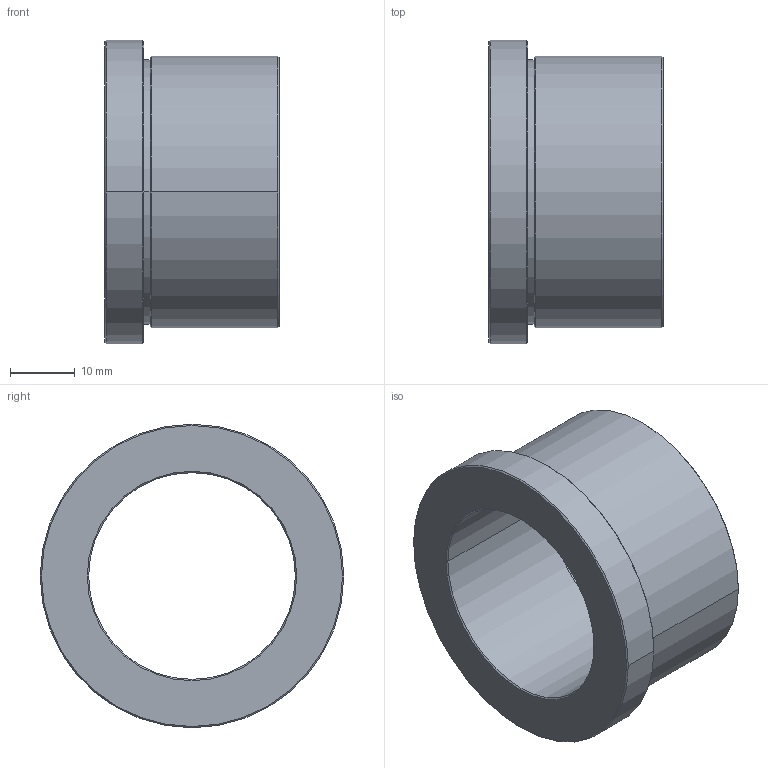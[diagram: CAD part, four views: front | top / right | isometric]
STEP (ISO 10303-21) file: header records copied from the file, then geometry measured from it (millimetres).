
FILE_DESCRIPTION (( 'STEP AP214' ), '1' );
FILE_NAME ('R03_027x32.STEP', '2015-03-05T14:47:21', ( 'TGL' ), ( '' ), 'SwSTEP 2.0', 'SolidWorks 2011', '' );
FILE_SCHEMA (( 'AUTOMOTIVE_DESIGN' ));
Length unit declared in the file: millimetre
Products named in the file (1): R03_027x32
Bounding box: 27 x 47 x 47 mm (x, y, z)
Volume: 17231.3 mm3; surface area: 8094.4 mm2
Topology: 1 solids, 1 shells, 24 faces, 48 edges, 28 vertices
Faces by surface type: cone 10, cylinder 8, plane 4, torus 2
Entity records: 730 total; most frequent: DIRECTION 128, CARTESIAN_POINT 101, ORIENTED_EDGE 96, AXIS2_PLACEMENT_3D 55, EDGE_CURVE 48, CIRCLE 30, VERTEX_POINT 28, EDGE_LOOP 28
